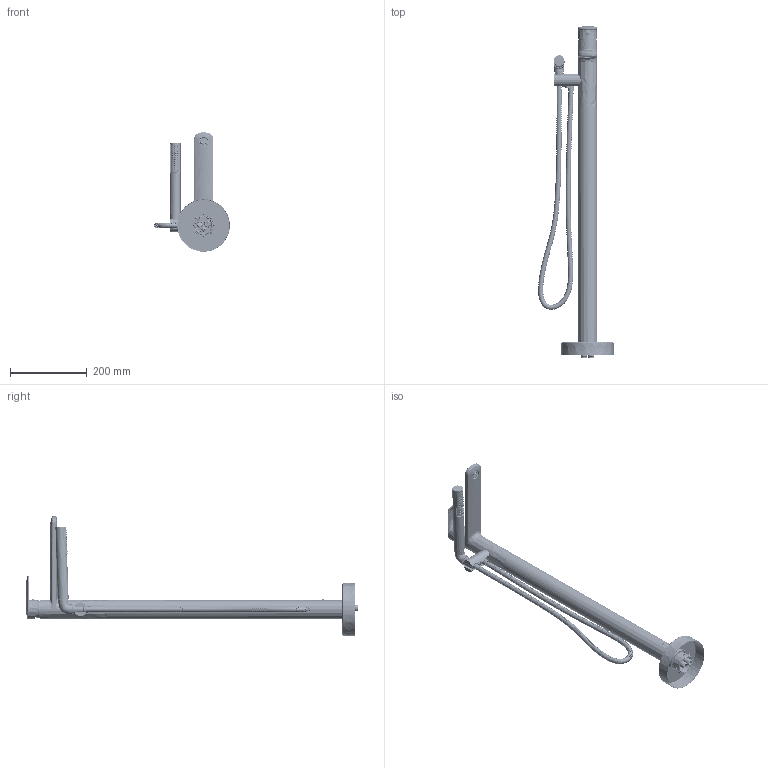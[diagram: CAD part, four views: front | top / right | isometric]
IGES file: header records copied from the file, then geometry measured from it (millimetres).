
Start section: SolidWorks IGES file using analytic representation for surfaces
Global section: file name: C:\Users\ccai\Desktop\CeliaC\Projects\0920-ADHOC-02495&02496 Neutral File#3\sku_tev38series_igs\DUP_TEV38SERIES.IGS; native system: SolidWorks 2023; preprocessor: SolidWorks 2023; author: ccai; date: 240919.142311; units: millimetre
Bounding box: 197.7 x 865.2 x 311.49 mm (x, y, z)
Surface area: 758532.7 mm2 (no closed solid volume)
Topology: 0 solids, 0 shells, 15132 faces, 163642 edges, 163550 vertices
Faces by surface type: bspline 9070, revolution 6062
